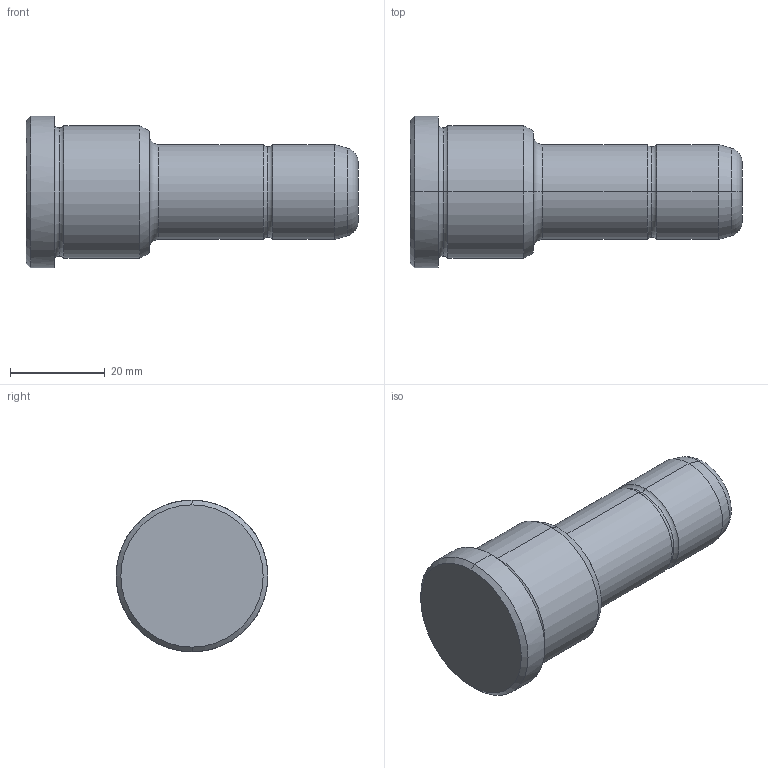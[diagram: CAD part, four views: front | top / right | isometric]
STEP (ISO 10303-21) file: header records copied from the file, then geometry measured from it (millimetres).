
FILE_DESCRIPTION(('CATIA V5 STEP Exchange'),'2;1');
FILE_NAME('C:\Users\Utente\Desktop\IO LAVORO\3D X SITO CF\X SITO\PLASTICA\351\351-20X26X70.stp','2021-08-27T12:41:41+00:00',('none'),('none'),'CATIA Version 5 Release 20 GA (IN-10)','CATIA V5 STEP AP203','none');
FILE_SCHEMA(('CONFIG_CONTROL_DESIGN'));
Length unit declared in the file: millimetre
Products named in the file (1): 351-20X26X70
Bounding box: 70 x 32 x 32 mm (x, y, z)
Volume: 30514.3 mm3; surface area: 6454.5 mm2
Topology: 1 solids, 1 shells, 30 faces, 86 edges, 60 vertices
Faces by surface type: torus 12, cylinder 8, cone 6, plane 4
Entity records: 1112 total; most frequent: CARTESIAN_POINT 289, ORIENTED_EDGE 172, DIRECTION 138, AXIS2_PLACEMENT_3D 95, EDGE_CURVE 86, CIRCLE 64, VERTEX_POINT 60, EDGE_LOOP 32
